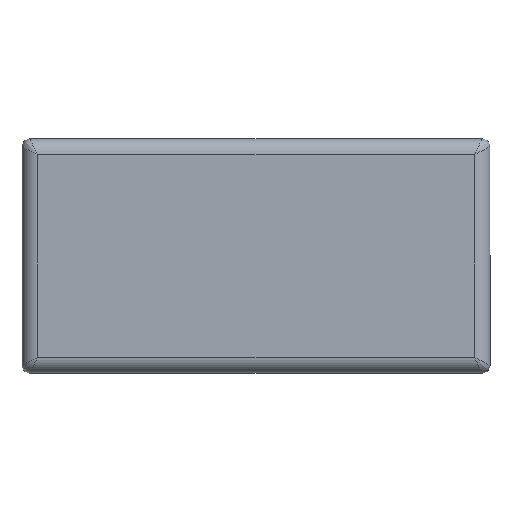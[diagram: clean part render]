
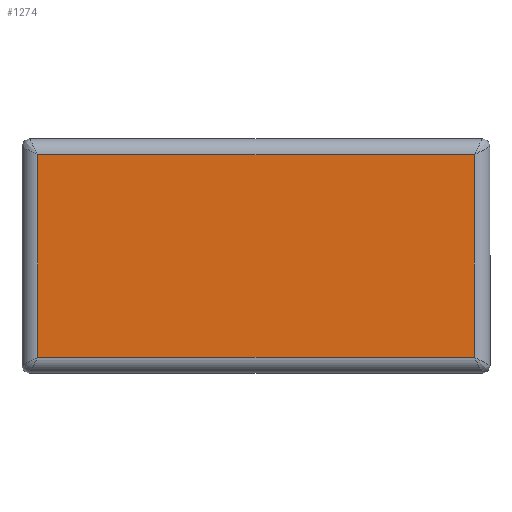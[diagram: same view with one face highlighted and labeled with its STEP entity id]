
A CAD part, top view. The second image highlights one B-rep face of the part: STEP entity #1274.
In plain terms, the highlighted planar face has unit normal (0, 0, 1).
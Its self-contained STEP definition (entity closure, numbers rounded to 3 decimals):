
#25 = ORIENTED_EDGE ( 'NONE', *, *, #2321, .T. ) ;
#157 = VERTEX_POINT ( 'NONE', #2592 ) ;
#421 = DIRECTION ( 'NONE',  ( 1., 0., 0. ) ) ;
#460 = LINE ( 'NONE', #1556, #4227 ) ;
#791 = DIRECTION ( 'NONE',  ( 0., 0., 1. ) ) ;
#1022 = LINE ( 'NONE', #4226, #3411 ) ;
#1082 = DIRECTION ( 'NONE',  ( 1., 0., 0. ) ) ;
#1163 = DIRECTION ( 'NONE',  ( 0., -1., 0. ) ) ;
#1187 = LINE ( 'NONE', #1974, #4661 ) ;
#1274 = ADVANCED_FACE ( 'NONE', ( #3126 ), #3765, .T. ) ;
#1532 = CARTESIAN_POINT ( 'NONE',  ( -29., -14., 2.5 ) ) ;
#1542 = EDGE_CURVE ( 'NONE', #3324, #4186, #4491, .T. ) ;
#1556 = CARTESIAN_POINT ( 'NONE',  ( -28., -14., 2.5 ) ) ;
#1612 = DIRECTION ( 'NONE',  ( -1., 0., 0. ) ) ;
#1781 = VERTEX_POINT ( 'NONE', #3347 ) ;
#1912 = EDGE_LOOP ( 'NONE', ( #2318, #2978, #25, #1981 ) ) ;
#1974 = CARTESIAN_POINT ( 'NONE',  ( 28., 14., 2.5 ) ) ;
#1981 = ORIENTED_EDGE ( 'NONE', *, *, #4727, .T. ) ;
#2031 = EDGE_CURVE ( 'NONE', #4186, #1781, #1187, .T. ) ;
#2318 = ORIENTED_EDGE ( 'NONE', *, *, #1542, .T. ) ;
#2321 = EDGE_CURVE ( 'NONE', #1781, #157, #1022, .T. ) ;
#2329 = CARTESIAN_POINT ( 'NONE',  ( 28., -13., 2.5 ) ) ;
#2592 = CARTESIAN_POINT ( 'NONE',  ( -28., 13., 2.5 ) ) ;
#2724 = CARTESIAN_POINT ( 'NONE',  ( -28., -13., 2.5 ) ) ;
#2926 = CARTESIAN_POINT ( 'NONE',  ( 29., -13., 2.5 ) ) ;
#2978 = ORIENTED_EDGE ( 'NONE', *, *, #2031, .T. ) ;
#3126 = FACE_OUTER_BOUND ( 'NONE', #1912, .T. ) ;
#3324 = VERTEX_POINT ( 'NONE', #2724 ) ;
#3347 = CARTESIAN_POINT ( 'NONE',  ( 28., 13., 2.5 ) ) ;
#3411 = VECTOR ( 'NONE', #1612, 1000. ) ;
#3765 = PLANE ( 'NONE',  #4423 ) ;
#4000 = VECTOR ( 'NONE', #1082, 1000. ) ;
#4186 = VERTEX_POINT ( 'NONE', #2329 ) ;
#4226 = CARTESIAN_POINT ( 'NONE',  ( -29., 13., 2.5 ) ) ;
#4227 = VECTOR ( 'NONE', #1163, 1000. ) ;
#4339 = DIRECTION ( 'NONE',  ( 0., 1., 0. ) ) ;
#4423 = AXIS2_PLACEMENT_3D ( 'NONE', #1532, #791, #421 ) ;
#4491 = LINE ( 'NONE', #2926, #4000 ) ;
#4661 = VECTOR ( 'NONE', #4339, 1000. ) ;
#4727 = EDGE_CURVE ( 'NONE', #157, #3324, #460, .T. ) ;
